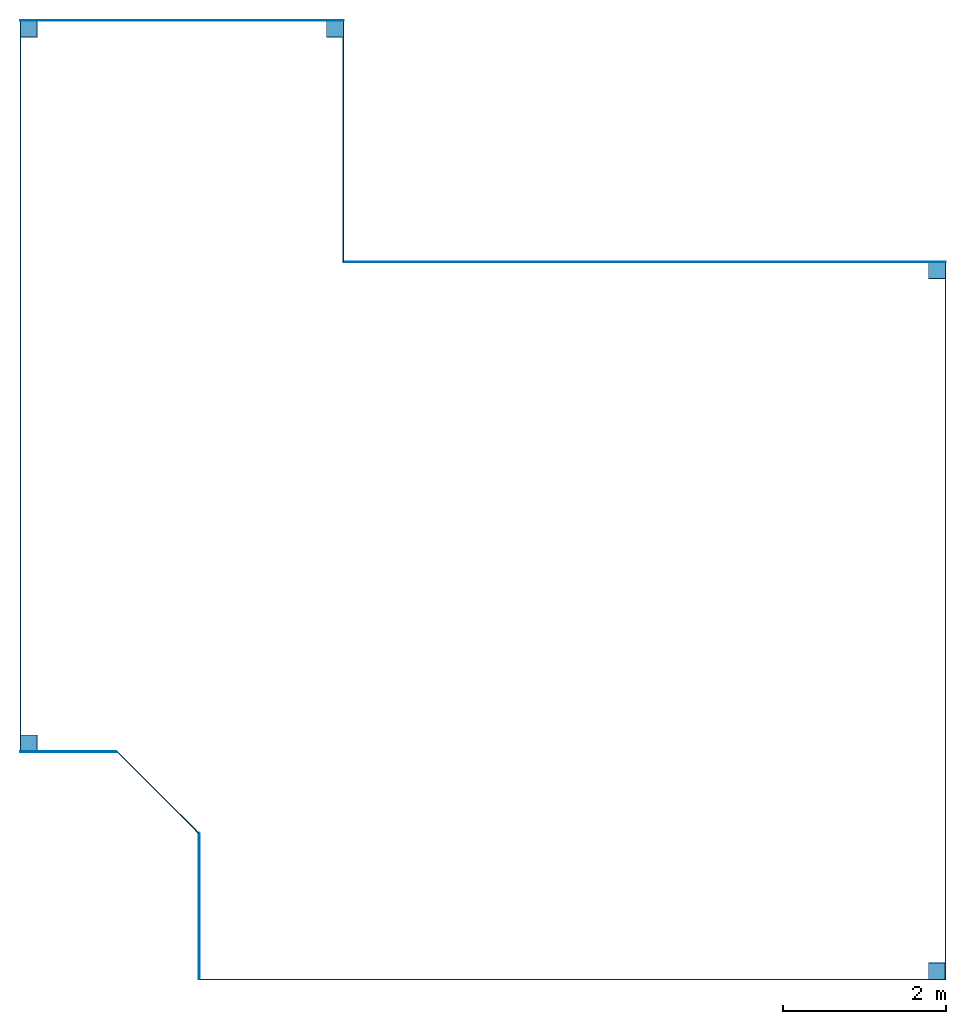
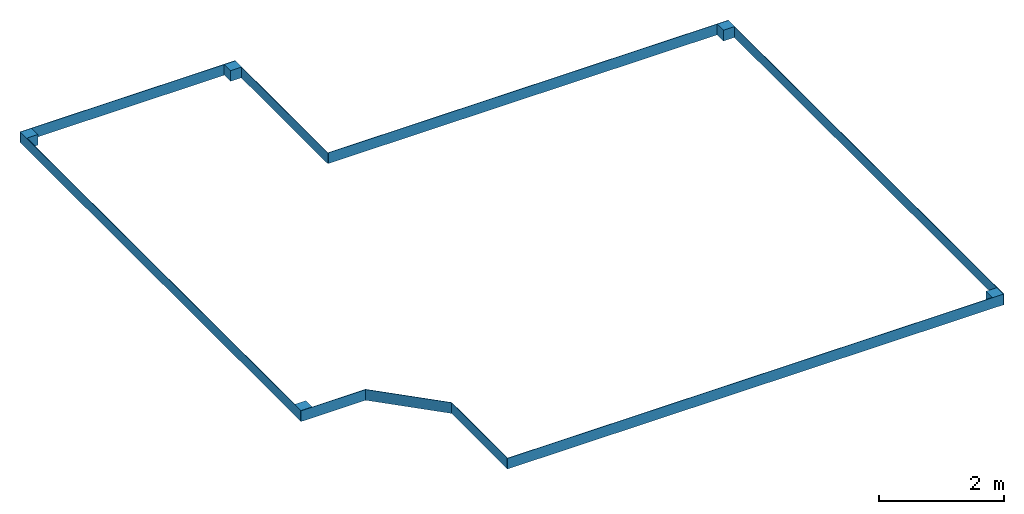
# One storey: 9 walls.
"""IFC2X3 building model written with IfcOpenShell, lengths in centimetres."""

from ifc_helpers import new_model, entity, si_unit, converted_unit, derived_unit, direction, frame, frame_2d, origin, place, context, subcontext, project, spatial, polyline, rectangle, outline, extrude, clip, halfspace, bounded_halfspace, material, layer, layer_set, layer_usage, type_object, element, save


model = new_model("IFC2X3")

# Units and contexts
model_context = context("Model", 3, precision=0.001, world=origin(), true_north=direction((6.12303176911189e-17, 1.0)))
body_context = subcontext(model_context, "Body", "Model", "MODEL_VIEW")
ifc_project = project(units=[si_unit("LENGTHUNIT", "METRE", prefix="CENTI"), si_unit("AREAUNIT", "SQUARE_METRE"), si_unit("VOLUMEUNIT", "CUBIC_METRE"), converted_unit("PLANEANGLEUNIT", "DEGREE", entity("IfcRatioMeasure", 0.0174532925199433), si_unit("PLANEANGLEUNIT", "RADIAN"), dimensions=[0, 0, 0, 0, 0, 0, 0]), si_unit("MASSUNIT", "GRAM", prefix="KILO"), derived_unit("MASSDENSITYUNIT", [(si_unit("MASSUNIT", "GRAM", prefix="KILO"), 1), (si_unit("LENGTHUNIT", "METRE"), -3)]), derived_unit("MOMENTOFINERTIAUNIT", [(si_unit("LENGTHUNIT", "METRE"), 4)]), si_unit("TIMEUNIT", "SECOND"), si_unit("FREQUENCYUNIT", "HERTZ"), si_unit("THERMODYNAMICTEMPERATUREUNIT", "DEGREE_CELSIUS"), derived_unit("THERMALTRANSMITTANCEUNIT", [(si_unit("MASSUNIT", "GRAM", prefix="KILO"), 1), (si_unit("THERMODYNAMICTEMPERATUREUNIT", "KELVIN"), -1), (si_unit("TIMEUNIT", "SECOND"), -3)]), derived_unit("VOLUMETRICFLOWRATEUNIT", [(si_unit("LENGTHUNIT", "METRE"), 3), (si_unit("TIMEUNIT", "SECOND"), -1)]), si_unit("ELECTRICCURRENTUNIT", "AMPERE"), si_unit("ELECTRICVOLTAGEUNIT", "VOLT"), si_unit("POWERUNIT", "WATT"), si_unit("FORCEUNIT", "NEWTON", prefix="KILO"), si_unit("ILLUMINANCEUNIT", "LUX"), si_unit("LUMINOUSFLUXUNIT", "LUMEN"), si_unit("LUMINOUSINTENSITYUNIT", "CANDELA"), derived_unit("USERDEFINED", [(si_unit("MASSUNIT", "GRAM", prefix="KILO"), -1), (si_unit("LENGTHUNIT", "METRE"), -2), (si_unit("TIMEUNIT", "SECOND"), 3), (si_unit("LUMINOUSFLUXUNIT", "LUMEN"), 1)]), derived_unit("LINEARVELOCITYUNIT", [(si_unit("LENGTHUNIT", "METRE"), 1), (si_unit("TIMEUNIT", "SECOND"), -1)]), si_unit("PRESSUREUNIT", "PASCAL"), derived_unit("USERDEFINED", [(si_unit("LENGTHUNIT", "METRE"), -2), (si_unit("MASSUNIT", "GRAM", prefix="KILO"), 1), (si_unit("TIMEUNIT", "SECOND"), -2)]), derived_unit("LINEARFORCEUNIT", [(si_unit("MASSUNIT", "GRAM", prefix="KILO"), 1), (si_unit("LENGTHUNIT", "METRE"), 1), (si_unit("TIMEUNIT", "SECOND"), -2), (si_unit("LENGTHUNIT", "METRE"), -1)]), derived_unit("PLANARFORCEUNIT", [(si_unit("MASSUNIT", "GRAM", prefix="KILO"), 1), (si_unit("LENGTHUNIT", "METRE"), 1), (si_unit("TIMEUNIT", "SECOND"), -2), (si_unit("LENGTHUNIT", "METRE"), -2)])], contexts=[model_context])

# Site, building, storey
site_placement = place(None, origin())
site = spatial("IfcSite", under=ifc_project, at=site_placement, Name="Surface", CompositionType="ELEMENT")
building_placement = place(site_placement, origin())
building = spatial("IfcBuilding", under=site, at=building_placement, CompositionType="ELEMENT")
storey_placement = place(building_placement, frame((0.0, 0.0, -29.0)))
storey = spatial("IfcBuildingStorey", under=building, at=storey_placement, Name="-0.29_Dessous plancher", CompositionType="ELEMENT", Elevation=-29.0)

# Walls
ifc_material_1 = material(Name="Protection humidité")
ifc_layer_1 = layer(ifc_material_1, 1.0)
ifc_material_2 = material(Name="Blocs de maçonnerie en béton")
ifc_layer_2 = layer(ifc_material_2, 20.0)
ifc_layer_set = layer_set([ifc_layer_1, ifc_layer_2], Name="Mur de base:Mur de soubassement")
ifc_layer_usage_1 = layer_usage(ifc_layer_set, "AXIS2", "NEGATIVE", 10.5)
wall_type = type_object("IfcWallType", Name="Mur de base:Mur de soubassement", PredefinedType="STANDARD", material=ifc_layer_set)
wall_1_placement = place(storey_placement, frame((-1789.17726031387, 1009.49231712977, 0.0)))
element("IfcWallStandardCase", 1, at=wall_1_placement, inside=storey, type_object=wall_type, material=ifc_layer_usage_1, Name="Mur de base:Mur de soubassement", ObjectType="Mur de base:Mur de soubassement", context=body_context, shape_type="Clipping", body=[
    clip(clip(extrude(rectangle(XDim=398.0, YDim=21.0, at=frame_2d((199.0, 6.48370246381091e-14), x_axis=(-1.0, 0.0))), origin(), (0.0, 0.0, 1.0), 21.0), bounded_halfspace(frame((0.0, -10.5, 0.0), z_axis=(0.0, 0.0, 1.0), x_axis=(0.0, 1.0, 0.0)), False, frame((0.0, -10.5, 0.0)), polyline([(0.0, 0.0), (21.0, 0.0), (377.0, 0.0), (398.0, 0.0), (398.0, 20.0), (397.0, 20.0), (1.0, 20.0), (0.0, 20.0), (0.0, 0.0)]))), halfspace(frame((0.0, 0.0, -69.0)), True)),
])
ifc_layer_usage_2 = layer_usage(ifc_layer_set, "AXIS2", "NEGATIVE", 10.5)
wall_2_placement = place(storey_placement, frame((-1401.67726031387, 1018.99231712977, 0.0), z_axis=(0.0, 0.0, 1.0), x_axis=(0.0, -1.0, 0.0)))
element("IfcWallStandardCase", 2, at=wall_2_placement, inside=storey, type_object=wall_type, material=ifc_layer_usage_2, Name="Mur de base:Mur de soubassement", ObjectType="Mur de base:Mur de soubassement", context=body_context, shape_type="Clipping", body=[
    clip(clip(extrude(rectangle(XDim=317.0, YDim=21.0, at=frame_2d((158.5, 1.4210854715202e-14), x_axis=(-1.0, 0.0))), origin(), (0.0, 0.0, 1.0), 21.0), bounded_halfspace(frame((20.0, -10.4999999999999, 0.0), z_axis=(0.0, 0.0, 1.0), x_axis=(0.0, 1.0, 0.0)), False, frame((20.0, -10.4999999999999, 0.0)), polyline([(0.0, 0.0), (297.0, 0.0), (297.0, 21.0), (277.0, 21.0), (277.0, 20.0), (0.0, 20.0), (0.0, 0.0)]))), halfspace(frame((0.0, 0.0, -69.0)), True)),
])
ifc_layer_usage_3 = layer_usage(ifc_layer_set, "AXIS2", "NEGATIVE", 10.5)
wall_3_placement = place(storey_placement, frame((-1391.17726031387, 712.492317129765, 0.0)))
element("IfcWallStandardCase", 3, at=wall_3_placement, inside=storey, type_object=wall_type, material=ifc_layer_usage_3, Name="Mur de base:Mur de soubassement", ObjectType="Mur de base:Mur de soubassement", context=body_context, shape_type="Clipping", body=[
    clip(clip(extrude(rectangle(XDim=740.0, YDim=21.0, at=frame_2d((370.0, 0.0), x_axis=(-1.0, 0.0))), origin(), (0.0, 0.0, 1.0), 21.0), bounded_halfspace(frame((0.0, -10.5, 0.0), z_axis=(0.0, 0.0, 1.0), x_axis=(0.0, 1.0, 0.0)), False, frame((0.0, -10.5, 0.0)), polyline([(0.0, 0.0), (719.0, 0.0), (740.0, 0.0), (740.0, 20.0), (739.0, 20.0), (0.0, 20.0), (0.0, 0.0)]))), halfspace(frame((0.0, 0.0, -69.0)), True)),
])
ifc_layer_usage_4 = layer_usage(ifc_layer_set, "AXIS2", "NEGATIVE", 10.5)
wall_4_placement = place(storey_placement, frame((-661.677260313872, 721.992317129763, 0.0), z_axis=(0.0, 0.0, 1.0), x_axis=(0.0, -1.0, 0.0)))
element("IfcWallStandardCase", 4, at=wall_4_placement, inside=storey, type_object=wall_type, material=ifc_layer_usage_4, Name="Mur de base:Mur de soubassement", ObjectType="Mur de base:Mur de soubassement", context=body_context, shape_type="Clipping", body=[
    clip(clip(extrude(rectangle(XDim=881.999999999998, YDim=21.0, at=frame_2d((440.999999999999, 3.46389583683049e-14), x_axis=(-1.0, 0.0))), origin(), (0.0, 0.0, 1.0), 21.0), bounded_halfspace(frame((20.0, -10.5, 0.0), z_axis=(0.0, 0.0, 1.0), x_axis=(0.0, 1.0, 0.0)), False, frame((20.0, -10.5, 0.0)), polyline([(0.0, 0.0), (841.0, 0.0), (862.0, 0.0), (862.0, 20.0), (861.0, 20.0), (0.0, 20.0), (0.0, 0.0)]))), halfspace(frame((0.0, 0.0, -69.0)), True)),
])
ifc_layer_usage_5 = layer_usage(ifc_layer_set, "AXIS2", "NEGATIVE", 10.5)
wall_5_placement = place(storey_placement, frame((-652.177260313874, -149.507682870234, 0.0), z_axis=(0.0, 0.0, 1.0), x_axis=(-1.0, 0.0, 0.0)))
element("IfcWallStandardCase", 5, at=wall_5_placement, inside=storey, type_object=wall_type, material=ifc_layer_usage_5, Name="Mur de base:Mur de soubassement", ObjectType="Mur de base:Mur de soubassement", context=body_context, shape_type="Clipping", body=[
    clip(clip(extrude(rectangle(XDim=917.0, YDim=21.0, at=frame_2d((458.5, -8.88178419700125e-16), x_axis=(-1.0, 0.0))), origin(), (0.0, 0.0, 1.0), 21.0), bounded_halfspace(frame((20.0, -10.5, 0.0), z_axis=(0.0, 0.0, 1.0), x_axis=(0.0, 1.0, 0.0)), False, frame((20.0, -10.5, 0.0)), polyline([(0.0, 0.0), (876.0, 0.0), (897.0, 0.0), (897.0, 20.0), (896.0, 20.0), (0.0, 20.0), (0.0, 0.0)]))), halfspace(frame((0.0, 0.0, -69.0)), True)),
])
ifc_layer_usage_6 = layer_usage(ifc_layer_set, "AXIS2", "NEGATIVE", 10.5)
wall_6_placement = place(storey_placement, frame((-1558.67726031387, -159.007682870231, 0.0), z_axis=(0.0, 0.0, 1.0), x_axis=(0.0, 1.0, 0.0)))
element("IfcWallStandardCase", 6, at=wall_6_placement, inside=storey, type_object=wall_type, material=ifc_layer_usage_6, Name="Mur de base:Mur de soubassement", ObjectType="Mur de base:Mur de soubassement", context=body_context, shape_type="SweptSolid", body=[
    extrude(outline(polyline([(-90.1642135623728, -0.499999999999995), (89.6642135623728, -0.499999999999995), (89.6642135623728, 0.499999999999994), (-89.1642135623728, 0.499999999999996), (-90.1642135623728, -0.499999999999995)])), frame((89.6642135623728, 10.0, 0.0), z_axis=(0.0, 0.0, 1.0), x_axis=(-1.0, 0.0, 0.0)), (0.0, 0.0, 1.0), 21.0),
])
ifc_layer_usage_7 = layer_usage(ifc_layer_set, "AXIS2", "NEGATIVE", 10.5)
wall_7_placement = place(storey_placement, frame((-1561.75263911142, 26.8311518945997, 0.0), z_axis=(0.0, 0.0, 1.0), x_axis=(-0.707106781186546, 0.707106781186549, 0.0)))
element("IfcWallStandardCase", 7, at=wall_7_placement, inside=storey, type_object=wall_type, material=ifc_layer_usage_7, Name="Mur de base:Mur de soubassement", ObjectType="Mur de base:Mur de soubassement", context=body_context, shape_type="SweptSolid", body=[
    extrude(outline(polyline([(-51.1464466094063, -50.4393398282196), (-49.7322330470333, -50.4393398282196), (50.4393398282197, 49.7322330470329), (50.4393398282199, 51.1464466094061), (-51.1464466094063, -50.4393398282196)])), frame((71.8319984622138, 10.0, 0.0), z_axis=(0.0, 0.0, 1.0), x_axis=(0.707106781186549, -0.707106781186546, 0.0)), (0.0, 0.0, 1.0), 21.0),
])
ifc_layer_usage_8 = layer_usage(ifc_layer_set, "AXIS2", "NEGATIVE", 10.5)
wall_8_placement = place(storey_placement, frame((-1669.7630467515, 130.492317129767, 0.0), z_axis=(0.0, 0.0, 1.0), x_axis=(-1.0, 0.0, 0.0)))
element("IfcWallStandardCase", 8, at=wall_8_placement, inside=storey, type_object=wall_type, material=ifc_layer_usage_8, Name="Mur de base:Mur de soubassement", ObjectType="Mur de base:Mur de soubassement", context=body_context, shape_type="SweptSolid", body=[
    extrude(outline(polyline([(-51.0874241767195, -50.2388960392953), (-49.6732106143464, -50.2388960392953), (33.3511760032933, 32.7854905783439), (34.0582827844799, 33.4925973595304), (33.3511760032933, 34.1997041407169), (-51.0874241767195, -50.2388960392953)])), frame((71.6485281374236, 9.89999999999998, 0.0), z_axis=(0.0, 0.0, 1.0), x_axis=(0.70710678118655, -0.707106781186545, 0.0)), (0.0, 0.0, 1.0), 21.0),
])
ifc_layer_usage_9 = layer_usage(ifc_layer_set, "AXIS2", "NEGATIVE", 10.5)
wall_9_placement = place(storey_placement, frame((-1778.67726031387, 120.992317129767, 0.0), z_axis=(0.0, 0.0, 1.0), x_axis=(0.0, 1.0, 0.0)))
element("IfcWallStandardCase", 9, at=wall_9_placement, inside=storey, type_object=wall_type, material=ifc_layer_usage_9, Name="Mur de base:Mur de soubassement", ObjectType="Mur de base:Mur de soubassement", context=body_context, shape_type="Clipping", body=[
    clip(clip(extrude(rectangle(XDim=897.999999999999, YDim=21.0, at=frame_2d((449.0, 0.0), x_axis=(-1.0, 0.0))), origin(), (0.0, 0.0, 1.0), 21.0), bounded_halfspace(frame((20.0, -10.5, 0.0), z_axis=(0.0, 0.0, 1.0), x_axis=(0.0, 1.0, 0.0)), False, frame((20.0, -10.5, 0.0)), polyline([(0.0, 0.0), (858.0, 0.0), (858.0, 20.0), (0.0, 20.0), (0.0, 0.0)]))), halfspace(frame((0.0, 0.0, -69.0)), True)),
])

save(model, "model.ifc")
